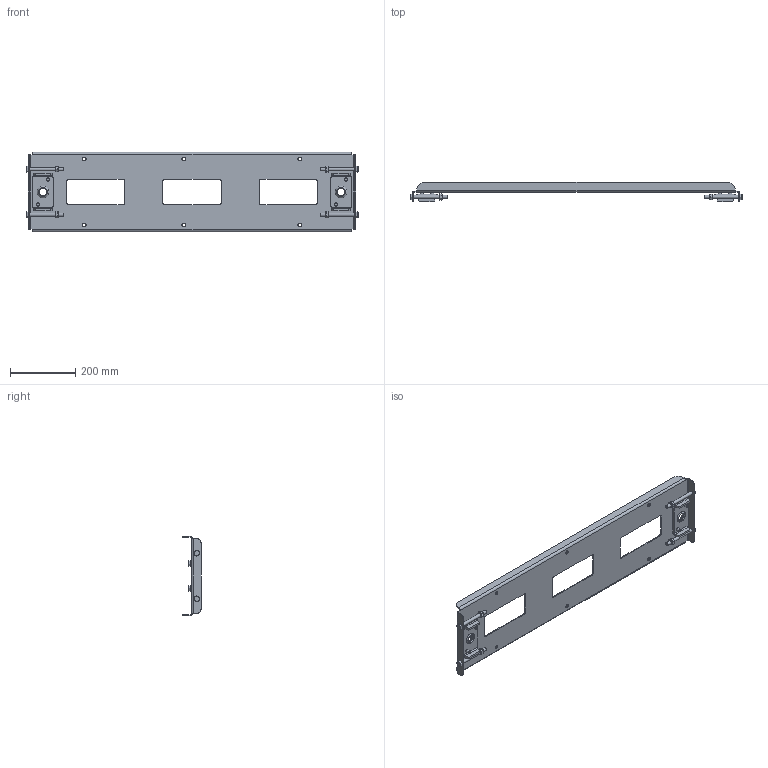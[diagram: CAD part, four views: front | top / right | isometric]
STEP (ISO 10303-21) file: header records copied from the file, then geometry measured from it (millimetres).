
FILE_DESCRIPTION(/* description */ (''),/* implementation_level */ '2;1');
FILE_NAME(/* name */ 'MRAA42051-36.002.stp',/* time_stamp */ '2026-01-20T12:38:04-05:00',/* author */ (''),/* organization */ (''),/* preprocessor_version */ 'ST-DEVELOPER v20',/* originating_system */ 'SIEMENS PLM Software NX2406.9101',/* authorisation */ '');
FILE_SCHEMA (('AUTOMOTIVE_DESIGN { 1 0 10303 214 3 1 1 1 }'));
Length unit declared in the file: millimetre
Products named in the file (1): MRAA42051-36.002
Bounding box: 1018.48 x 58.74 x 243.68 mm (x, y, z)
Volume: 980028.7 mm3; surface area: 600070.3 mm2
Topology: 19 solids, 19 shells, 458 faces, 1080 edges, 668 vertices
Faces by surface type: plane 214, cylinder 112, cone 60, torus 52, bspline 16, sphere 4
Full cylindrical faces by diameter (mm): 8.636 x4, 10 x12, 10.922 x10, 16.75 x4, 44.45 x2
Entity records: 16916 total; most frequent: CARTESIAN_POINT 3527, ORIENTED_EDGE 2036, DIRECTION 1970, EDGE_CURVE 1018, AXIS2_PLACEMENT_3D 765, VERTEX_POINT 658, EDGE_LOOP 584, PRESENTATION_STYLE_ASSIGNMENT 477
